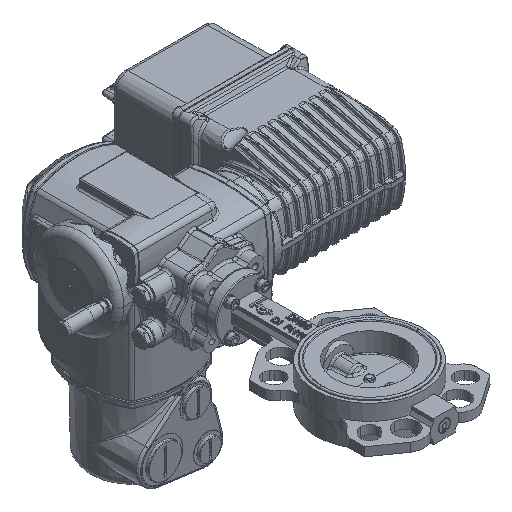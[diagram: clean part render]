
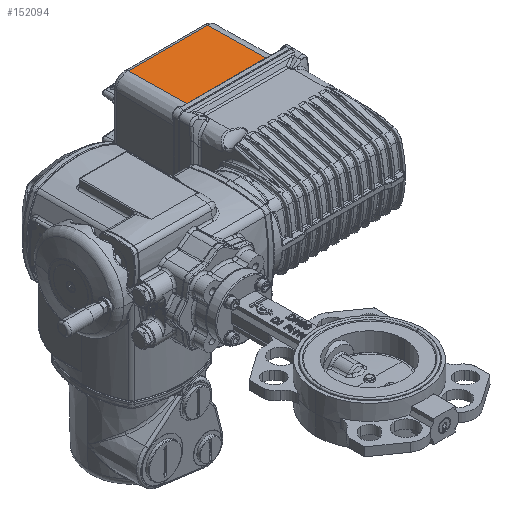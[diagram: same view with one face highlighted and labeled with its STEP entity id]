
A CAD part, isometric view. The second image highlights one B-rep face of the part: STEP entity #152094.
In plain terms, the highlighted planar face has unit normal (0, 0.018, 1).
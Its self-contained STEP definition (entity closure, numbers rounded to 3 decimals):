
#2650 = VERTEX_POINT ( 'NONE', #3441 ) ;
#3441 = CARTESIAN_POINT ( 'NONE',  ( 210.5, 397.087, 51.602 ) ) ;
#7986 = CARTESIAN_POINT ( 'NONE',  ( 210.5, 328.895, 52.792 ) ) ;
#8973 = FACE_OUTER_BOUND ( 'NONE', #128376, .T. ) ;
#9845 = DIRECTION ( 'NONE',  ( 0., -1., 0.017 ) ) ;
#11803 = AXIS2_PLACEMENT_3D ( 'NONE', #58844, #25645, #119385 ) ;
#24055 = VECTOR ( 'NONE', #95152, 1000. ) ;
#25645 = DIRECTION ( 'NONE',  ( 0., 0.017, 1. ) ) ;
#31704 = VECTOR ( 'NONE', #177229, 1000. ) ;
#54296 = VERTEX_POINT ( 'NONE', #120652 ) ;
#55073 = EDGE_CURVE ( 'NONE', #191784, #175695, #156406, .T. ) ;
#57917 = CARTESIAN_POINT ( 'NONE',  ( 119.5, 397.087, 51.602 ) ) ;
#58844 = CARTESIAN_POINT ( 'NONE',  ( 210.5, 317., 53. ) ) ;
#61319 = CARTESIAN_POINT ( 'NONE',  ( 119.5, 397.087, 51.602 ) ) ;
#66795 = EDGE_CURVE ( 'NONE', #175695, #54296, #166302, .T. ) ;
#67259 = DIRECTION ( 'NONE',  ( 1., 0., 0. ) ) ;
#70570 = ORIENTED_EDGE ( 'NONE', *, *, #66795, .T. ) ;
#76626 = EDGE_CURVE ( 'NONE', #2650, #54296, #112628, .T. ) ;
#87554 = VECTOR ( 'NONE', #67259, 1000. ) ;
#91025 = ORIENTED_EDGE ( 'NONE', *, *, #112965, .T. ) ;
#91973 = VECTOR ( 'NONE', #9845, 1000. ) ;
#95152 = DIRECTION ( 'NONE',  ( -1., 0., 0. ) ) ;
#112628 = LINE ( 'NONE', #117277, #31704 ) ;
#112965 = EDGE_CURVE ( 'NONE', #2650, #191784, #155248, .T. ) ;
#117277 = CARTESIAN_POINT ( 'NONE',  ( 210.5, 317., 53. ) ) ;
#119385 = DIRECTION ( 'NONE',  ( 0., -1., 0.017 ) ) ;
#120652 = CARTESIAN_POINT ( 'NONE',  ( 210.5, 328.895, 52.792 ) ) ;
#128376 = EDGE_LOOP ( 'NONE', ( #172285, #91025, #177879, #70570 ) ) ;
#147364 = PLANE ( 'NONE',  #11803 ) ;
#152094 = ADVANCED_FACE ( 'NONE', ( #8973 ), #147364, .T. ) ;
#155248 = LINE ( 'NONE', #61319, #24055 ) ;
#156406 = LINE ( 'NONE', #158368, #91973 ) ;
#158368 = CARTESIAN_POINT ( 'NONE',  ( 119.5, 317., 53. ) ) ;
#161139 = CARTESIAN_POINT ( 'NONE',  ( 119.5, 328.895, 52.792 ) ) ;
#166302 = LINE ( 'NONE', #7986, #87554 ) ;
#172285 = ORIENTED_EDGE ( 'NONE', *, *, #76626, .F. ) ;
#175695 = VERTEX_POINT ( 'NONE', #161139 ) ;
#177229 = DIRECTION ( 'NONE',  ( 0., -1., 0.017 ) ) ;
#177879 = ORIENTED_EDGE ( 'NONE', *, *, #55073, .T. ) ;
#191784 = VERTEX_POINT ( 'NONE', #57917 ) ;
